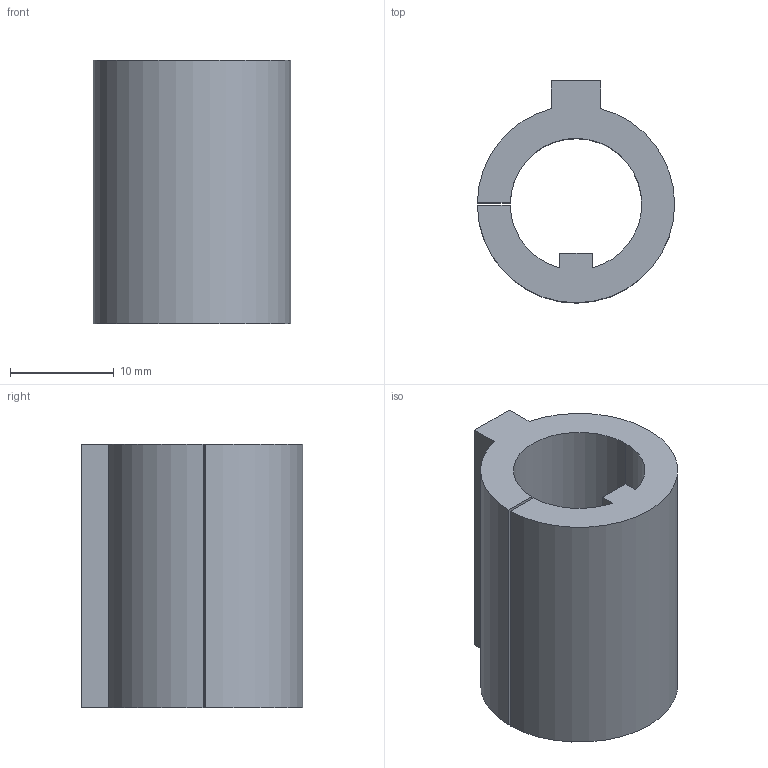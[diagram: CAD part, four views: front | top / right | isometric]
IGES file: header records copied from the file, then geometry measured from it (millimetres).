
Global section: file name: C:\Documents and Settings\Administrator\Desktop\Transfer Temp\shaftadapter.igs; native system: AutoDesk Inventor R2.0 ; preprocessor: AutoDesk Inventor Iges Exporter R2.0; author: No Author specified; organization: No Organization specified; date: 20020124.221655; units: inch
Bounding box: 19.05 x 21.43 x 25.4 mm (x, y, z)
Surface area: 3234.9 mm2 (no closed solid volume)
Topology: 0 solids, 0 shells, 16 faces, 84 edges, 84 vertices
Faces by surface type: bspline 10, revolution 6
